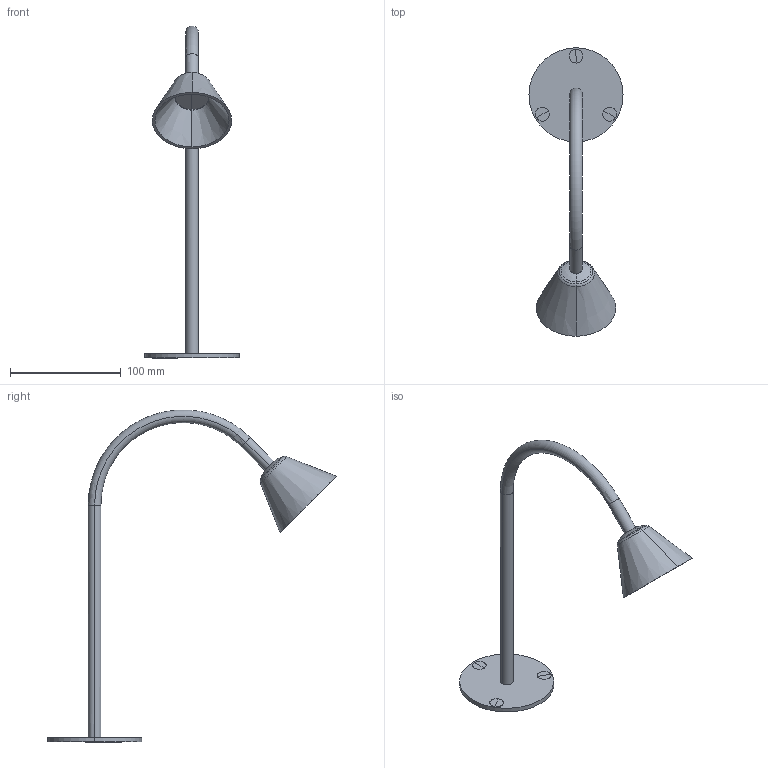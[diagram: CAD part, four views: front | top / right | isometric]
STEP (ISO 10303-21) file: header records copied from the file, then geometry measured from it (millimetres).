
FILE_DESCRIPTION(/* description */ (''),/* implementation_level */ '2;1');
FILE_NAME(/* name */ '75620.step',/* time_stamp */ '2024-09-26T14:49:43+02:00',/* author */ ('RenataManzini'),/* organization */ (''),/* preprocessor_version */ 'ST-DEVELOPER v20',/* originating_system */ 'AutoCAD Mechanical',/* authorisation */ '');
FILE_SCHEMA (('AUTOMOTIVE_DESIGN { 1 0 10303 214 3 1 1 }'));
Length unit declared in the file: millimetre
Products named in the file (2): Product; Lily_300 - pieza-740305-_3D_
Assembly tree (1 placements, depth 2):
  Product
    Lily_300 - pieza-740305-_3D_
Bounding box: 85 x 260.9 x 299.84 mm (x, y, z)
Volume: 114444.5 mm3; surface area: 46640.4 mm2
Topology: 7 solids, 7 shells, 72 faces, 129 edges, 73 vertices
Faces by surface type: plane 26, cylinder 22, cone 16, torus 6, bspline 2
Entity records: 1866 total; most frequent: CARTESIAN_POINT 414, DIRECTION 324, ORIENTED_EDGE 252, AXIS2_PLACEMENT_3D 136, EDGE_CURVE 126, EDGE_LOOP 78, FACE_OUTER_BOUND 72, ADVANCED_FACE 72
